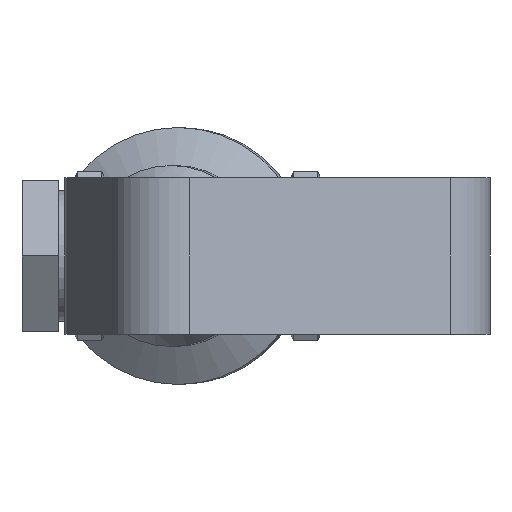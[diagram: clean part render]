
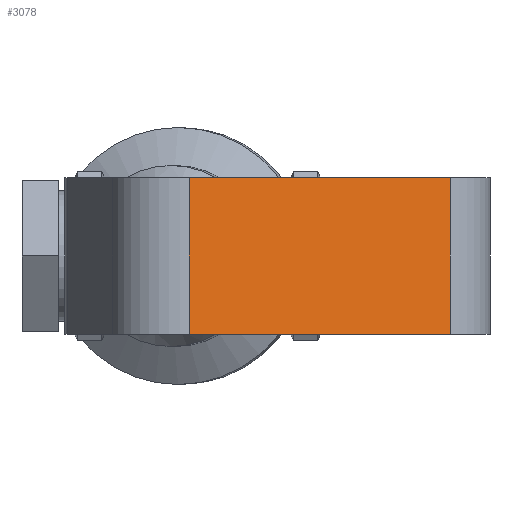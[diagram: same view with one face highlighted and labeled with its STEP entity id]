
A CAD part, front view. The second image highlights one B-rep face of the part: STEP entity #3078.
In plain terms, the highlighted planar face has unit normal (0.342, -0.94, 0).
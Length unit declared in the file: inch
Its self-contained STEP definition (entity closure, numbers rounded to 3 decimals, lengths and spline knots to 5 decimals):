
#107=PLANE('',#3402);
#244=FACE_OUTER_BOUND('',#426,.T.);
#426=EDGE_LOOP('',(#2130,#2131,#2132,#2133));
#619=LINE('',#4827,#863);
#626=LINE('',#4862,#870);
#627=LINE('',#4865,#871);
#628=LINE('',#4866,#872);
#863=VECTOR('',#3854,0.3937);
#870=VECTOR('',#3893,0.3937);
#871=VECTOR('',#3896,0.3937);
#872=VECTOR('',#3897,0.3937);
#1305=VERTEX_POINT('',#4824);
#1306=VERTEX_POINT('',#4826);
#1318=VERTEX_POINT('',#4860);
#1319=VERTEX_POINT('',#4864);
#1615=EDGE_CURVE('',#1305,#1306,#619,.T.);
#1632=EDGE_CURVE('',#1318,#1305,#626,.T.);
#1633=EDGE_CURVE('',#1319,#1318,#627,.T.);
#1634=EDGE_CURVE('',#1319,#1306,#628,.T.);
#2130=ORIENTED_EDGE('',*,*,#1632,.F.);
#2131=ORIENTED_EDGE('',*,*,#1633,.F.);
#2132=ORIENTED_EDGE('',*,*,#1634,.T.);
#2133=ORIENTED_EDGE('',*,*,#1615,.F.);
#3078=ADVANCED_FACE('',(#244),#107,.T.);
#3402=AXIS2_PLACEMENT_3D('',#4863,#3894,#3895);
#3854=DIRECTION('',(-0.94,-0.342,0.));
#3893=DIRECTION('',(0.,0.,-1.));
#3894=DIRECTION('center_axis',(0.342,-0.94,0.));
#3895=DIRECTION('ref_axis',(0.94,0.342,0.));
#3896=DIRECTION('',(0.94,0.342,0.));
#3897=DIRECTION('',(0.,0.,-1.));
#4824=CARTESIAN_POINT('',(2.09568,-4.43272,-0.65));
#4826=CARTESIAN_POINT('',(-0.06693,-5.21985,-0.65));
#4827=CARTESIAN_POINT('',(2.09568,-4.43272,-0.65));
#4860=CARTESIAN_POINT('',(2.09568,-4.43272,0.65));
#4862=CARTESIAN_POINT('',(2.09568,-4.43272,0.));
#4863=CARTESIAN_POINT('Origin',(-0.06693,-5.21985,0.));
#4864=CARTESIAN_POINT('',(-0.06693,-5.21985,0.65));
#4865=CARTESIAN_POINT('',(2.09568,-4.43272,0.65));
#4866=CARTESIAN_POINT('',(-0.06693,-5.21985,0.));
